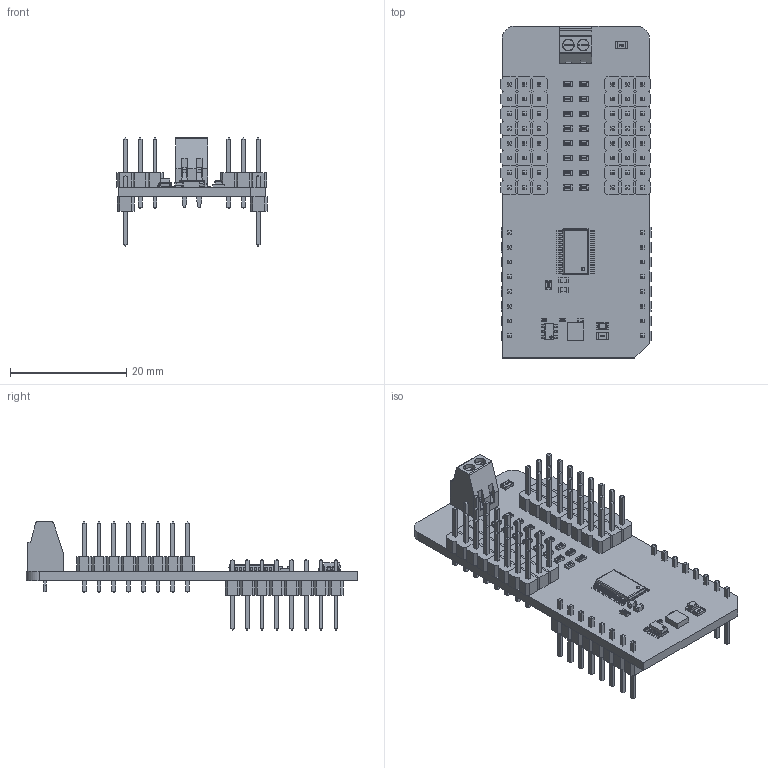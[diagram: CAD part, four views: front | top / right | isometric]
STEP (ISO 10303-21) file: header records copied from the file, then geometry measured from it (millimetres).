
FILE_DESCRIPTION(('Open CASCADE Model'),'2;1');
FILE_NAME('Open CASCADE Shape Model','2025-10-30T16:02:44',('Author'),( 'Open CASCADE'),'Open CASCADE STEP processor 7.5','Open CASCADE 7.5' ,'Unknown');
FILE_SCHEMA(('AUTOMOTIVE_DESIGN { 1 0 10303 214 1 1 1 1 }'));
Length unit declared in the file: millimetre
Products named in the file (57): PCB; Board; Open CASCADE STEP translator 7.5 1.1.1; R2; User Library-R_0402; R3; R1; User Library-R_0805; LD1; led_0805_green; C1; User Library-SMD CAPACITOR0402; U1; 8306151888; Extruded; U2; User Library-SOT23-6-2; U3; TSSOP-24; R21; User Library-R_0603; R4; R6; R8; R10; R12; R14; R16; R18; R19; R17; R15; R13; R11; R9; R7; R5; J6; User Library-Pin Header Strip 1x2; J5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
Assembly tree (100 placements, depth 7):
  PCB
    Board
      Open CASCADE STEP translator 7.5 1.1.1
    R2
      User Library-R_0402
    R3
      User Library-R_0402
    R1
      User Library-R_0805
    LD1
      led_0805_green
    C1
      User Library-SMD CAPACITOR0402
    U1
      8306151888
        Extruded
    U2
      User Library-SOT23-6-2
    U3
      TSSOP-24
    R21
      User Library-R_0603
    R4
      User Library-R_0603
    R6
      User Library-R_0603
    R8
      User Library-R_0603
    R10
      User Library-R_0603
    R12
      User Library-R_0603
    R14
      User Library-R_0603
    R16
      User Library-R_0603
    R18
      User Library-R_0603
    R19
      User Library-R_0603
    R17
      User Library-R_0603
    R15
      User Library-R_0603
    R13
      User Library-R_0603
    R11
      User Library-R_0603
    R9
      User Library-R_0603
    R7
      User Library-R_0603
    R5
      User Library-R_0603
    J6
      User Library-Pin Header Strip 1x2  x4
    J5
      User Library-Pin Header Strip 1x2  x4
    J4
      User Library-Pin Header Strip 1x2  x4
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Bounding box: 25.84 x 57.15 x 18.62 mm (x, y, z)
Volume: 4136.5 mm3; surface area: 8338.6 mm2
Topology: 143 solids, 143 shells, 4561 faces, 11337 edges, 7291 vertices
Faces by surface type: plane 3376, bspline 901, cylinder 244, sphere 40
Entity records: 49490 total; most frequent: CARTESIAN_POINT 13844, ORIENTED_EDGE 6320, DIRECTION 5845, EDGE_CURVE 3160, LINE 2449, VECTOR 2449, VERTEX_POINT 2029, AXIS2_PLACEMENT_3D 1698
